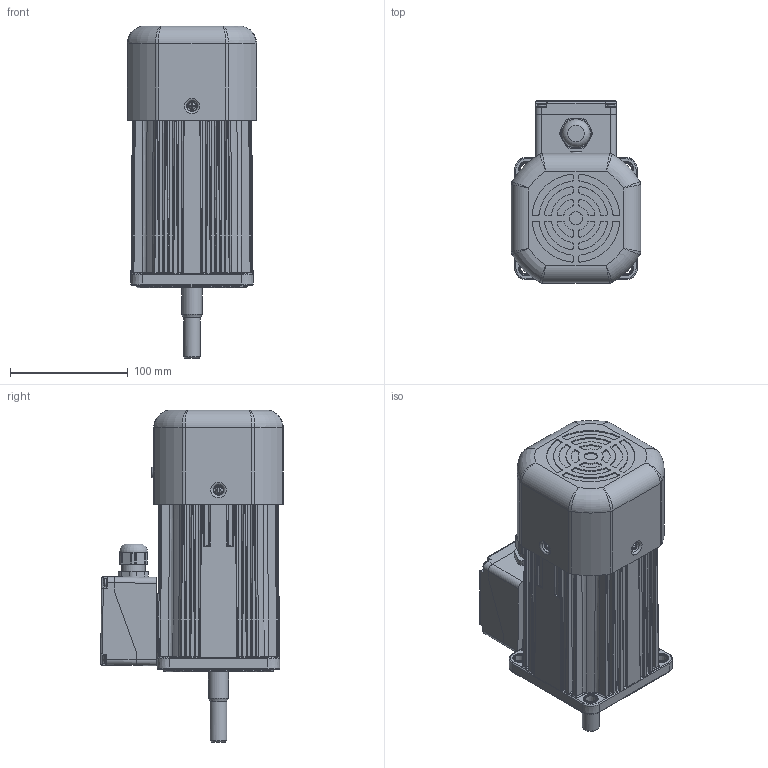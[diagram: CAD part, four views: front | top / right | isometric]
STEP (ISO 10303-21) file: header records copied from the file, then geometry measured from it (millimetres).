
FILE_DESCRIPTION (( 'STEP AP214' ), '1' );
FILE_NAME ('10BDGE-250FHC-T.STEP', '2025-01-13T07:56:10', ( '' ), ( '' ), 'SwSTEP 2.0', 'SolidWorks 2024', '' );
FILE_SCHEMA (( 'AUTOMOTIVE_DESIGN' ));
Length unit declared in the file: millimetre
Products named in the file (3): 10BDGE-250FHC; TB8090; 10BDGE-250FHC-T
Assembly tree (2 placements, depth 2):
  10BDGE-250FHC-T
    10BDGE-250FHC
    TB8090
Bounding box: 110 x 154.94 x 281.8 mm (x, y, z)
Volume: 2357205.7 mm3; surface area: 161426.6 mm2
Topology: 4 solids, 4 shells, 910 faces, 2318 edges, 1429 vertices
Faces by surface type: plane 389, cylinder 263, bspline 158, cone 81, torus 13, sphere 6
Full cylindrical faces by diameter (mm): 4 x1, 5.8 x4, 6.7 x4, 8 x4, 11 x1, 14.38 x1, 17 x1, 18 x1, 20 x1, 43 x1, 94 x1
Entity records: 48820 total; most frequent: CARTESIAN_POINT 28633, ORIENTED_EDGE 4394, DIRECTION 3743, EDGE_CURVE 2197, VERTEX_POINT 1410, AXIS2_PLACEMENT_3D 1314, LINE 1115, VECTOR 1115
